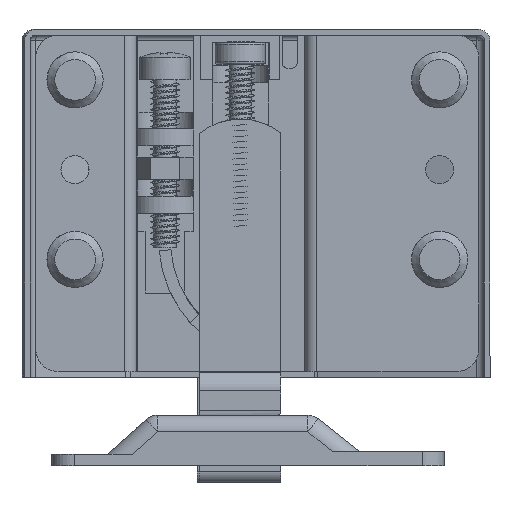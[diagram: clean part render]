
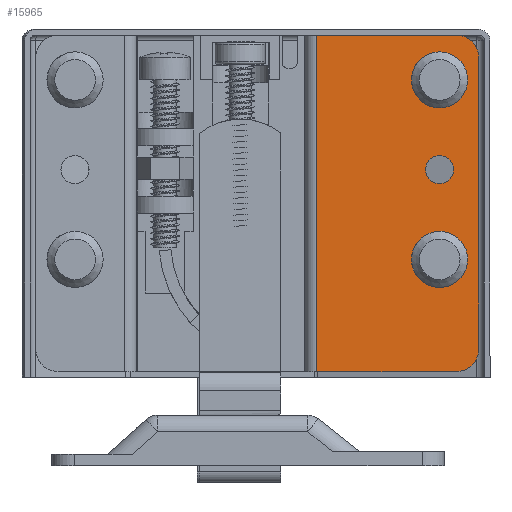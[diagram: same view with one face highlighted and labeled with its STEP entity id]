
A CAD part, front view. The second image highlights one B-rep face of the part: STEP entity #15965.
In plain terms, the highlighted planar face has unit normal (0.003, -1, 0).
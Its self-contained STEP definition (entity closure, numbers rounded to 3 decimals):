
#425=FACE_BOUND('',#3035,.T.);
#426=FACE_BOUND('',#3036,.T.);
#427=FACE_BOUND('',#3037,.T.);
#830=CIRCLE('',#17238,2.5);
#862=CIRCLE('',#17299,3.);
#864=CIRCLE('',#17302,3.);
#883=CIRCLE('',#17350,4.);
#884=CIRCLE('',#17353,4.);
#1983=FACE_OUTER_BOUND('',#3034,.T.);
#3034=EDGE_LOOP('',(#13007,#13008,#13009,#13010,#13011,#13012));
#3035=EDGE_LOOP('',(#13013));
#3036=EDGE_LOOP('',(#13014));
#3037=EDGE_LOOP('',(#13015));
#4434=LINE('',#30513,#5976);
#4437=LINE('',#30519,#5979);
#4438=LINE('',#30521,#5980);
#4439=LINE('',#30523,#5981);
#5976=VECTOR('',#20874,10.);
#5979=VECTOR('',#20879,10.);
#5980=VECTOR('',#20880,10.);
#5981=VECTOR('',#20881,10.);
#7368=VERTEX_POINT('',#30174);
#7418=VERTEX_POINT('',#30334);
#7420=VERTEX_POINT('',#30339);
#7475=VERTEX_POINT('',#30506);
#7476=VERTEX_POINT('',#30508);
#7477=VERTEX_POINT('',#30512);
#7479=VERTEX_POINT('',#30518);
#7480=VERTEX_POINT('',#30520);
#7481=VERTEX_POINT('',#30522);
#9268=EDGE_CURVE('',#7368,#7368,#830,.T.);
#9349=EDGE_CURVE('',#7418,#7418,#862,.T.);
#9351=EDGE_CURVE('',#7420,#7420,#864,.T.);
#9435=EDGE_CURVE('',#7475,#7476,#883,.T.);
#9437=EDGE_CURVE('',#7477,#7476,#4434,.T.);
#9440=EDGE_CURVE('',#7475,#7479,#4437,.T.);
#9441=EDGE_CURVE('',#7479,#7480,#4438,.T.);
#9442=EDGE_CURVE('',#7480,#7481,#4439,.T.);
#9443=EDGE_CURVE('',#7477,#7481,#884,.T.);
#13007=ORIENTED_EDGE('',*,*,#9435,.F.);
#13008=ORIENTED_EDGE('',*,*,#9440,.T.);
#13009=ORIENTED_EDGE('',*,*,#9441,.T.);
#13010=ORIENTED_EDGE('',*,*,#9442,.T.);
#13011=ORIENTED_EDGE('',*,*,#9443,.F.);
#13012=ORIENTED_EDGE('',*,*,#9437,.T.);
#13013=ORIENTED_EDGE('',*,*,#9268,.T.);
#13014=ORIENTED_EDGE('',*,*,#9349,.T.);
#13015=ORIENTED_EDGE('',*,*,#9351,.T.);
#15135=PLANE('',#17352);
#15965=ADVANCED_FACE('',(#1983,#425,#426,#427),#15135,.F.);
#17238=AXIS2_PLACEMENT_3D('',#30175,#20531,#20532);
#17299=AXIS2_PLACEMENT_3D('',#30335,#20702,#20703);
#17302=AXIS2_PLACEMENT_3D('',#30340,#20708,#20709);
#17350=AXIS2_PLACEMENT_3D('',#30509,#20869,#20870);
#17352=AXIS2_PLACEMENT_3D('',#30517,#20877,#20878);
#17353=AXIS2_PLACEMENT_3D('',#30524,#20882,#20883);
#20531=DIRECTION('center_axis',(0.,1.,0.));
#20532=DIRECTION('ref_axis',(1.,0.,0.));
#20702=DIRECTION('center_axis',(0.,1.,0.));
#20703=DIRECTION('ref_axis',(1.,0.,0.));
#20708=DIRECTION('center_axis',(0.,1.,0.));
#20709=DIRECTION('ref_axis',(1.,0.,0.));
#20869=DIRECTION('center_axis',(0.,1.,0.));
#20870=DIRECTION('ref_axis',(0.707,0.,0.707));
#20874=DIRECTION('',(0.,0.,1.));
#20877=DIRECTION('center_axis',(0.,1.,0.));
#20878=DIRECTION('ref_axis',(0.,0.,1.));
#20879=DIRECTION('',(-1.,0.,0.));
#20880=DIRECTION('',(0.,0.,-1.));
#20881=DIRECTION('',(1.,0.,0.));
#20882=DIRECTION('center_axis',(0.,1.,0.));
#20883=DIRECTION('ref_axis',(0.707,0.,-0.707));
#30174=CARTESIAN_POINT('',(-9.5,0.,-24.));
#30175=CARTESIAN_POINT('Origin',(-7.,0.,-24.));
#30334=CARTESIAN_POINT('',(-10.,0.,-8.));
#30335=CARTESIAN_POINT('Origin',(-7.,0.,-8.));
#30339=CARTESIAN_POINT('',(-10.,0.,-40.));
#30340=CARTESIAN_POINT('Origin',(-7.,0.,-40.));
#30506=CARTESIAN_POINT('',(-4.,0.,0.));
#30508=CARTESIAN_POINT('',(0.,0.,-4.));
#30509=CARTESIAN_POINT('Origin',(-4.,0.,-4.));
#30512=CARTESIAN_POINT('',(0.,0.,-56.));
#30513=CARTESIAN_POINT('',(0.,0.,-60.));
#30517=CARTESIAN_POINT('Origin',(-15.5,0.,-30.));
#30518=CARTESIAN_POINT('',(-28.9,0.,0.));
#30519=CARTESIAN_POINT('',(0.,0.,0.));
#30520=CARTESIAN_POINT('',(-28.9,0.,-60.));
#30521=CARTESIAN_POINT('',(-28.9,0.,-15.));
#30522=CARTESIAN_POINT('',(-4.,0.,-60.));
#30523=CARTESIAN_POINT('',(-31.,0.,-60.));
#30524=CARTESIAN_POINT('Origin',(-4.,0.,-56.));
